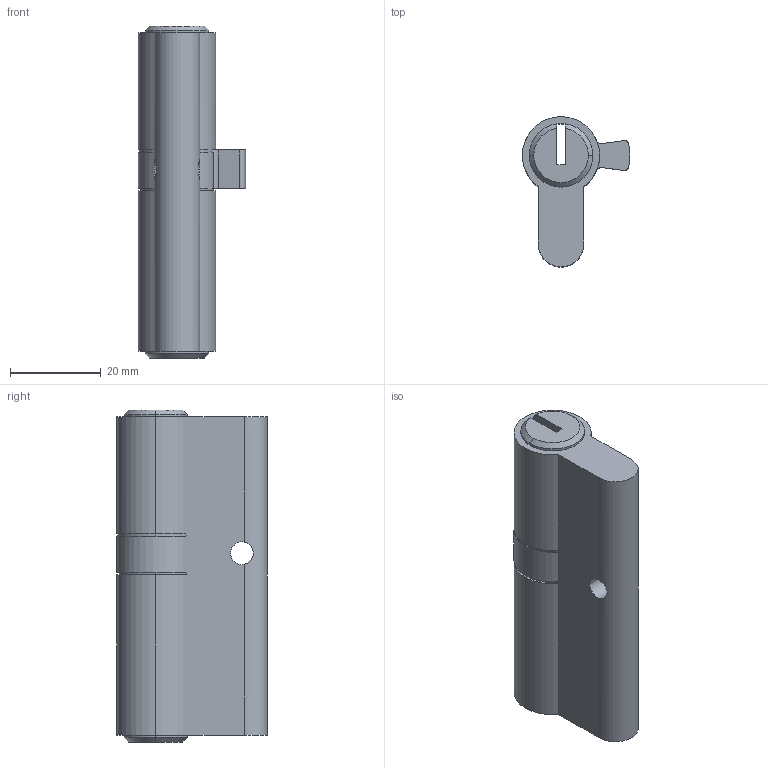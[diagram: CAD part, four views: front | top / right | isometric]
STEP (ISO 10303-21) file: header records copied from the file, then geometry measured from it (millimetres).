
FILE_DESCRIPTION (( 'STEP AP214' ), '1' );
FILE_NAME ('TPL-H-EU-517-L 29Oct2024.STEP', '2024-10-29T22:23:59', ( '' ), ( '' ), 'SwSTEP 2.0', 'SolidWorks 2023', '' );
FILE_SCHEMA (( 'AUTOMOTIVE_DESIGN' ));
Length unit declared in the file: millimetre
Products named in the file (1): TPL-H-EU-517-L 29Oct2024
Bounding box: 23.58 x 33 x 73 mm (x, y, z)
Volume: 26057.5 mm3; surface area: 8632.4 mm2
Topology: 1 solids, 1 shells, 51 faces, 141 edges, 88 vertices
Faces by surface type: cylinder 29, plane 16, cone 6
Entity records: 1740 total; most frequent: CARTESIAN_POINT 357, DIRECTION 307, ORIENTED_EDGE 282, EDGE_CURVE 141, AXIS2_PLACEMENT_3D 122, VERTEX_POINT 88, CIRCLE 70, VECTOR 63
